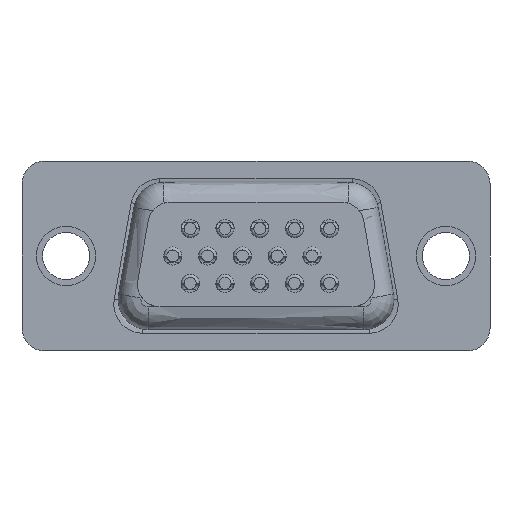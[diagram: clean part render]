
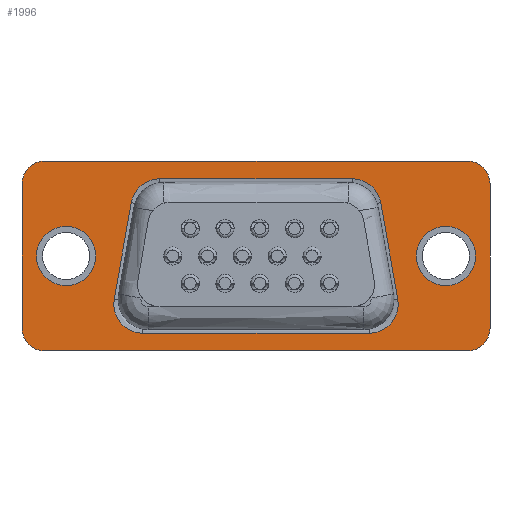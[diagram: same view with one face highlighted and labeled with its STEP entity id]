
A CAD part, front view. The second image highlights one B-rep face of the part: STEP entity #1996.
In plain terms, the highlighted planar face has unit normal (0, -1, 0).
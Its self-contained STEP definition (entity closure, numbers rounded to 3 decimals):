
#342=FACE_BOUND('',#3119,.T.);
#343=FACE_BOUND('',#3120,.T.);
#344=FACE_BOUND('',#3121,.T.);
#345=FACE_BOUND('',#3122,.T.);
#1443=CIRCLE('',#12779,1.9);
#1447=CIRCLE('',#12783,1.9);
#1451=CIRCLE('',#12787,1.9);
#1481=CIRCLE('',#12824,1.95);
#1484=CIRCLE('',#12827,1.95);
#1493=CIRCLE('',#12837,1.95);
#1496=CIRCLE('',#12840,1.95);
#1509=CIRCLE('',#12856,1.5);
#1510=CIRCLE('',#12858,1.5);
#1511=CIRCLE('',#12860,1.5);
#1512=CIRCLE('',#12862,1.5);
#1513=CIRCLE('',#12863,1.9);
#1996=ADVANCED_FACE('',(#342,#343,#344,#345),#2420,.F.);
#2420=PLANE('',#12864);
#3119=EDGE_LOOP('',(#4091,#4092,#4093,#4094,#4095,#4096,#4097,#4098));
#3120=EDGE_LOOP('',(#4099,#4100));
#3121=EDGE_LOOP('',(#4101,#4102));
#3122=EDGE_LOOP('',(#4103,#4104,#4105,#4106,#4107,#4108,#4109,#4110));
#4091=ORIENTED_EDGE('',*,*,#6507,.F.);
#4092=ORIENTED_EDGE('',*,*,#6510,.F.);
#4093=ORIENTED_EDGE('',*,*,#6513,.F.);
#4094=ORIENTED_EDGE('',*,*,#6516,.T.);
#4095=ORIENTED_EDGE('',*,*,#6519,.F.);
#4096=ORIENTED_EDGE('',*,*,#6634,.F.);
#4097=ORIENTED_EDGE('',*,*,#6503,.F.);
#4098=ORIENTED_EDGE('',*,*,#6505,.F.);
#4099=ORIENTED_EDGE('',*,*,#6578,.F.);
#4100=ORIENTED_EDGE('',*,*,#6583,.F.);
#4101=ORIENTED_EDGE('',*,*,#6594,.F.);
#4102=ORIENTED_EDGE('',*,*,#6599,.F.);
#4103=ORIENTED_EDGE('',*,*,#6619,.F.);
#4104=ORIENTED_EDGE('',*,*,#6622,.F.);
#4105=ORIENTED_EDGE('',*,*,#6624,.F.);
#4106=ORIENTED_EDGE('',*,*,#6626,.F.);
#4107=ORIENTED_EDGE('',*,*,#6628,.F.);
#4108=ORIENTED_EDGE('',*,*,#6630,.F.);
#4109=ORIENTED_EDGE('',*,*,#6631,.F.);
#4110=ORIENTED_EDGE('',*,*,#6633,.F.);
#5777=VERTEX_POINT('',#17000);
#5779=VERTEX_POINT('',#17004);
#5780=VERTEX_POINT('',#17010);
#5781=VERTEX_POINT('',#17019);
#5783=VERTEX_POINT('',#17027);
#5785=VERTEX_POINT('',#17038);
#5787=VERTEX_POINT('',#17046);
#5789=VERTEX_POINT('',#17057);
#5822=VERTEX_POINT('',#17277);
#5823=VERTEX_POINT('',#17278);
#5832=VERTEX_POINT('',#17328);
#5833=VERTEX_POINT('',#17329);
#5850=VERTEX_POINT('',#17396);
#5851=VERTEX_POINT('',#17398);
#5852=VERTEX_POINT('',#17402);
#5853=VERTEX_POINT('',#17408);
#5854=VERTEX_POINT('',#17412);
#5855=VERTEX_POINT('',#17418);
#5856=VERTEX_POINT('',#17422);
#5857=VERTEX_POINT('',#17428);
#6503=EDGE_CURVE('',#5779,#5777,#8545,.T.);
#6505=EDGE_CURVE('',#5780,#5779,#1443,.T.);
#6507=EDGE_CURVE('',#5781,#5780,#8546,.T.);
#6510=EDGE_CURVE('',#5783,#5781,#1447,.T.);
#6513=EDGE_CURVE('',#5785,#5783,#8548,.T.);
#6516=EDGE_CURVE('',#5785,#5787,#1451,.T.);
#6519=EDGE_CURVE('',#5789,#5787,#8550,.T.);
#6578=EDGE_CURVE('',#5822,#5823,#1481,.T.);
#6583=EDGE_CURVE('',#5823,#5822,#1484,.T.);
#6594=EDGE_CURVE('',#5832,#5833,#1493,.T.);
#6599=EDGE_CURVE('',#5833,#5832,#1496,.T.);
#6619=EDGE_CURVE('',#5850,#5851,#8586,.T.);
#6622=EDGE_CURVE('',#5852,#5850,#1509,.T.);
#6624=EDGE_CURVE('',#5853,#5852,#8590,.T.);
#6626=EDGE_CURVE('',#5854,#5853,#1510,.T.);
#6628=EDGE_CURVE('',#5855,#5854,#8593,.T.);
#6630=EDGE_CURVE('',#5856,#5855,#1511,.T.);
#6631=EDGE_CURVE('',#5857,#5856,#8595,.T.);
#6633=EDGE_CURVE('',#5851,#5857,#1512,.T.);
#6634=EDGE_CURVE('',#5777,#5789,#1513,.T.);
#8545=LINE('',#17005,#9306);
#8546=LINE('',#17020,#9307);
#8548=LINE('',#17039,#9309);
#8550=LINE('',#17058,#9311);
#8586=LINE('',#17397,#9347);
#8590=LINE('',#17409,#9351);
#8593=LINE('',#17419,#9354);
#8595=LINE('',#17427,#9356);
#9306=VECTOR('',#13892,1.);
#9307=VECTOR('',#13901,1.);
#9309=VECTOR('',#13913,1.);
#9311=VECTOR('',#13925,1.);
#9347=VECTOR('',#14124,1.);
#9351=VECTOR('',#14133,1.);
#9354=VECTOR('',#14141,1.);
#9356=VECTOR('',#14148,1.);
#12779=AXIS2_PLACEMENT_3D('',#17011,#13896,#13897);
#12783=AXIS2_PLACEMENT_3D('',#17028,#13907,#13908);
#12787=AXIS2_PLACEMENT_3D('',#17047,#13919,#13920);
#12824=AXIS2_PLACEMENT_3D('',#17276,#14037,#14038);
#12827=AXIS2_PLACEMENT_3D('',#17288,#14046,#14047);
#12837=AXIS2_PLACEMENT_3D('',#17327,#14073,#14074);
#12840=AXIS2_PLACEMENT_3D('',#17339,#14082,#14083);
#12856=AXIS2_PLACEMENT_3D('',#17403,#14129,#14130);
#12858=AXIS2_PLACEMENT_3D('',#17413,#14137,#14138);
#12860=AXIS2_PLACEMENT_3D('',#17423,#14145,#14146);
#12862=AXIS2_PLACEMENT_3D('',#17431,#14152,#14153);
#12863=AXIS2_PLACEMENT_3D('',#17435,#14155,#14156);
#12864=AXIS2_PLACEMENT_3D('',#17436,#14157,#14158);
#13892=DIRECTION('',(-1.,0.,0.));
#13896=DIRECTION('',(0.,-1.,0.));
#13897=DIRECTION('',(0.985,0.,0.174));
#13901=DIRECTION('',(-0.174,0.,0.985));
#13907=DIRECTION('',(0.,-1.,0.));
#13908=DIRECTION('',(0.,0.,-1.));
#13913=DIRECTION('',(1.,0.,0.));
#13919=DIRECTION('',(0.,1.,0.));
#13920=DIRECTION('',(0.,0.,-1.));
#13925=DIRECTION('',(-0.174,0.,-0.985));
#14037=DIRECTION('',(0.,-1.,0.));
#14038=DIRECTION('',(1.,0.,0.));
#14046=DIRECTION('',(0.,-1.,0.));
#14047=DIRECTION('',(-1.,0.,0.));
#14073=DIRECTION('',(0.,-1.,0.));
#14074=DIRECTION('',(1.,0.,0.));
#14082=DIRECTION('',(0.,-1.,0.));
#14083=DIRECTION('',(-1.,0.,0.));
#14124=DIRECTION('',(-1.,0.,0.));
#14129=DIRECTION('',(0.,1.,0.));
#14130=DIRECTION('',(1.,0.,0.));
#14133=DIRECTION('',(0.,0.,-1.));
#14137=DIRECTION('',(0.,1.,0.));
#14138=DIRECTION('',(0.,0.,1.));
#14141=DIRECTION('',(1.,0.,0.));
#14145=DIRECTION('',(0.,1.,0.));
#14146=DIRECTION('',(-1.,0.,0.));
#14148=DIRECTION('',(0.,0.,1.));
#14152=DIRECTION('',(0.,1.,0.));
#14153=DIRECTION('',(0.,0.,-1.));
#14155=DIRECTION('',(0.,-1.,0.));
#14156=DIRECTION('',(0.,0.,1.));
#14157=DIRECTION('',(0.,1.,0.));
#14158=DIRECTION('',(-1.,0.,0.));
#17000=CARTESIAN_POINT('',(-6.339,2.5,5.08));
#17004=CARTESIAN_POINT('',(6.339,2.5,5.08));
#17005=CARTESIAN_POINT('',(6.339,2.5,5.08));
#17010=CARTESIAN_POINT('',(8.21,2.5,3.51));
#17011=CARTESIAN_POINT('',(6.339,2.5,3.18));
#17019=CARTESIAN_POINT('',(9.331,2.5,-2.85));
#17020=CARTESIAN_POINT('',(9.331,2.5,-2.85));
#17027=CARTESIAN_POINT('',(7.46,2.5,-5.08));
#17028=CARTESIAN_POINT('',(7.46,2.5,-3.18));
#17038=CARTESIAN_POINT('',(-7.46,2.5,-5.08));
#17039=CARTESIAN_POINT('',(-7.46,2.5,-5.08));
#17046=CARTESIAN_POINT('',(-9.331,2.5,-2.85));
#17047=CARTESIAN_POINT('',(-7.46,2.5,-3.18));
#17057=CARTESIAN_POINT('',(-8.21,2.5,3.51));
#17058=CARTESIAN_POINT('',(-8.21,2.5,3.51));
#17276=CARTESIAN_POINT('',(-12.495,2.5,0.));
#17277=CARTESIAN_POINT('',(-10.545,2.5,0.));
#17278=CARTESIAN_POINT('',(-14.445,2.5,0.));
#17288=CARTESIAN_POINT('',(-12.495,2.5,0.));
#17327=CARTESIAN_POINT('',(12.495,2.5,0.));
#17328=CARTESIAN_POINT('',(14.445,2.5,0.));
#17329=CARTESIAN_POINT('',(10.545,2.5,0.));
#17339=CARTESIAN_POINT('',(12.495,2.5,0.));
#17396=CARTESIAN_POINT('',(13.9,2.5,-6.25));
#17397=CARTESIAN_POINT('',(13.9,2.5,-6.25));
#17398=CARTESIAN_POINT('',(-13.9,2.5,-6.25));
#17402=CARTESIAN_POINT('',(15.4,2.5,-4.75));
#17403=CARTESIAN_POINT('',(13.9,2.5,-4.75));
#17408=CARTESIAN_POINT('',(15.4,2.5,4.75));
#17409=CARTESIAN_POINT('',(15.4,2.5,4.75));
#17412=CARTESIAN_POINT('',(13.9,2.5,6.25));
#17413=CARTESIAN_POINT('',(13.9,2.5,4.75));
#17418=CARTESIAN_POINT('',(-13.9,2.5,6.25));
#17419=CARTESIAN_POINT('',(-13.9,2.5,6.25));
#17422=CARTESIAN_POINT('',(-15.4,2.5,4.75));
#17423=CARTESIAN_POINT('',(-13.9,2.5,4.75));
#17427=CARTESIAN_POINT('',(-15.4,2.5,-4.75));
#17428=CARTESIAN_POINT('',(-15.4,2.5,-4.75));
#17431=CARTESIAN_POINT('',(-13.9,2.5,-4.75));
#17435=CARTESIAN_POINT('',(-6.339,2.5,3.18));
#17436=CARTESIAN_POINT('',(16.016,2.5,-6.5));
